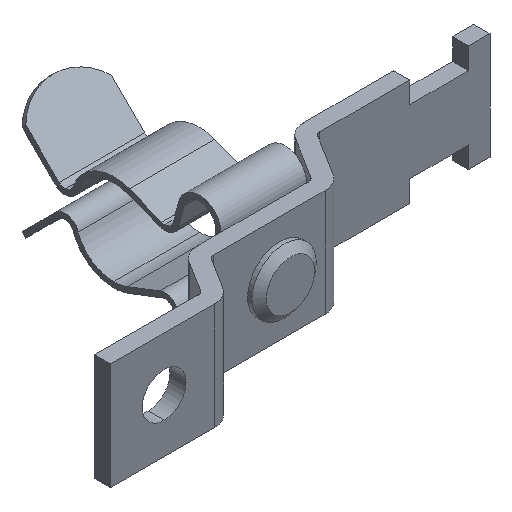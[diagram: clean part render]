
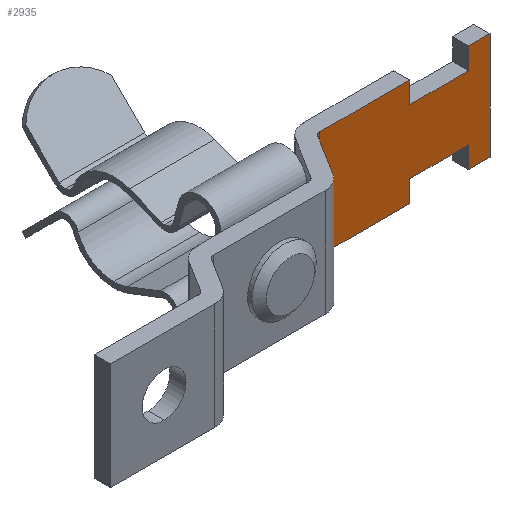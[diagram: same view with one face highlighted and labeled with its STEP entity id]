
A CAD part, isometric view. The second image highlights one B-rep face of the part: STEP entity #2935.
In plain terms, the highlighted planar face has unit normal (0, -1, 0).
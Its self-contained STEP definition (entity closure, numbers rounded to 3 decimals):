
#2 = DIRECTION ( 'NONE',  ( -1., 0., 0. ) ) ;
#4 = CARTESIAN_POINT ( 'NONE',  ( 31.051, 27.915, 28.561 ) ) ;
#8 = CARTESIAN_POINT ( 'NONE',  ( 36.551, 27.915, 28.561 ) ) ;
#10 = ORIENTED_EDGE ( 'NONE', *, *, #2580, .T. ) ;
#14 = DIRECTION ( 'NONE',  ( 0., 0., 1. ) ) ;
#18 = ORIENTED_EDGE ( 'NONE', *, *, #451, .T. ) ;
#40 = VERTEX_POINT ( 'NONE', #2093 ) ;
#97 = CARTESIAN_POINT ( 'NONE',  ( 31.051, 27.915, 28.561 ) ) ;
#132 = CARTESIAN_POINT ( 'NONE',  ( 36.551, 27.915, 28.561 ) ) ;
#186 = CARTESIAN_POINT ( 'NONE',  ( 36.551, 27.915, 30.561 ) ) ;
#293 = VECTOR ( 'NONE', #14, 1000. ) ;
#325 = LINE ( 'NONE', #1009, #860 ) ;
#358 = EDGE_CURVE ( 'NONE', #1165, #1889, #1015, .T. ) ;
#365 = ORIENTED_EDGE ( 'NONE', *, *, #1992, .T. ) ;
#385 = DIRECTION ( 'NONE',  ( 0., 0., -1. ) ) ;
#387 = CARTESIAN_POINT ( 'NONE',  ( 21.551, 27.915, 28.561 ) ) ;
#451 = EDGE_CURVE ( 'NONE', #1889, #564, #1125, .T. ) ;
#529 = CARTESIAN_POINT ( 'NONE',  ( 22.659, 27.915, 28.561 ) ) ;
#531 = EDGE_CURVE ( 'NONE', #1483, #1622, #1958, .T. ) ;
#564 = VERTEX_POINT ( 'NONE', #2569 ) ;
#578 = CARTESIAN_POINT ( 'NONE',  ( 31.051, 27.915, 36.561 ) ) ;
#617 = VERTEX_POINT ( 'NONE', #2313 ) ;
#642 = CARTESIAN_POINT ( 'NONE',  ( 38.551, 27.915, 28.561 ) ) ;
#661 = CARTESIAN_POINT ( 'NONE',  ( 38.551, 27.915, 28.561 ) ) ;
#669 = LINE ( 'NONE', #97, #2527 ) ;
#670 = EDGE_LOOP ( 'NONE', ( #1183, #365, #2272, #1806, #18, #739, #699, #10, #1429, #747, #2946, #2414 ) ) ;
#686 = EDGE_CURVE ( 'NONE', #40, #2769, #1273, .T. ) ;
#694 = DIRECTION ( 'NONE',  ( 0., 0., -1. ) ) ;
#699 = ORIENTED_EDGE ( 'NONE', *, *, #746, .T. ) ;
#739 = ORIENTED_EDGE ( 'NONE', *, *, #2175, .T. ) ;
#741 = AXIS2_PLACEMENT_3D ( 'NONE', #387, #2028, #2923 ) ;
#746 = EDGE_CURVE ( 'NONE', #1180, #2982, #325, .T. ) ;
#747 = ORIENTED_EDGE ( 'NONE', *, *, #942, .T. ) ;
#750 = LINE ( 'NONE', #2071, #2130 ) ;
#839 = VECTOR ( 'NONE', #694, 1000. ) ;
#852 = CARTESIAN_POINT ( 'NONE',  ( 22.659, 27.915, 28.561 ) ) ;
#860 = VECTOR ( 'NONE', #2368, 1000. ) ;
#897 = VECTOR ( 'NONE', #2, 1000. ) ;
#942 = EDGE_CURVE ( 'NONE', #1622, #2188, #1780, .T. ) ;
#986 = LINE ( 'NONE', #8, #839 ) ;
#1009 = CARTESIAN_POINT ( 'NONE',  ( 21.551, 27.915, 30.561 ) ) ;
#1015 = LINE ( 'NONE', #852, #1708 ) ;
#1073 = DIRECTION ( 'NONE',  ( 0., 0., 1. ) ) ;
#1108 = CARTESIAN_POINT ( 'NONE',  ( 21.551, 27.915, 28.561 ) ) ;
#1109 = CARTESIAN_POINT ( 'NONE',  ( 21.551, 27.915, 38.561 ) ) ;
#1125 = LINE ( 'NONE', #1353, #1674 ) ;
#1127 = CARTESIAN_POINT ( 'NONE',  ( 22.659, 27.915, 38.561 ) ) ;
#1160 = CARTESIAN_POINT ( 'NONE',  ( 31.051, 27.915, 30.561 ) ) ;
#1163 = CARTESIAN_POINT ( 'NONE',  ( 21.551, 27.915, 36.561 ) ) ;
#1165 = VERTEX_POINT ( 'NONE', #1127 ) ;
#1180 = VERTEX_POINT ( 'NONE', #1160 ) ;
#1183 = ORIENTED_EDGE ( 'NONE', *, *, #686, .T. ) ;
#1205 = EDGE_CURVE ( 'NONE', #2718, #40, #1455, .T. ) ;
#1273 = LINE ( 'NONE', #1163, #897 ) ;
#1320 = PLANE ( 'NONE',  #741 ) ;
#1353 = CARTESIAN_POINT ( 'NONE',  ( 21.551, 27.915, 28.561 ) ) ;
#1404 = LINE ( 'NONE', #4, #293 ) ;
#1429 = ORIENTED_EDGE ( 'NONE', *, *, #531, .T. ) ;
#1455 = LINE ( 'NONE', #2095, #2092 ) ;
#1457 = VECTOR ( 'NONE', #1609, 1000. ) ;
#1483 = VERTEX_POINT ( 'NONE', #132 ) ;
#1609 = DIRECTION ( 'NONE',  ( 1., 0., 0. ) ) ;
#1622 = VERTEX_POINT ( 'NONE', #661 ) ;
#1631 = CARTESIAN_POINT ( 'NONE',  ( 38.551, 27.915, 38.561 ) ) ;
#1674 = VECTOR ( 'NONE', #2039, 1000. ) ;
#1708 = VECTOR ( 'NONE', #385, 1000. ) ;
#1751 = EDGE_CURVE ( 'NONE', #2188, #2718, #750, .T. ) ;
#1778 = DIRECTION ( 'NONE',  ( 0., 0., 1. ) ) ;
#1780 = LINE ( 'NONE', #642, #2094 ) ;
#1806 = ORIENTED_EDGE ( 'NONE', *, *, #358, .T. ) ;
#1813 = DIRECTION ( 'NONE',  ( -1., 0., 0. ) ) ;
#1889 = VERTEX_POINT ( 'NONE', #529 ) ;
#1958 = LINE ( 'NONE', #1108, #1457 ) ;
#1992 = EDGE_CURVE ( 'NONE', #2769, #617, #669, .T. ) ;
#2028 = DIRECTION ( 'NONE',  ( 0., -1., 0. ) ) ;
#2039 = DIRECTION ( 'NONE',  ( 1., 0., 0. ) ) ;
#2071 = CARTESIAN_POINT ( 'NONE',  ( 21.551, 27.915, 38.561 ) ) ;
#2087 = EDGE_CURVE ( 'NONE', #617, #1165, #2811, .T. ) ;
#2092 = VECTOR ( 'NONE', #2779, 1000. ) ;
#2093 = CARTESIAN_POINT ( 'NONE',  ( 36.551, 27.915, 36.561 ) ) ;
#2094 = VECTOR ( 'NONE', #1073, 1000. ) ;
#2095 = CARTESIAN_POINT ( 'NONE',  ( 36.551, 27.915, 28.561 ) ) ;
#2130 = VECTOR ( 'NONE', #2533, 1000. ) ;
#2175 = EDGE_CURVE ( 'NONE', #564, #1180, #1404, .T. ) ;
#2188 = VERTEX_POINT ( 'NONE', #1631 ) ;
#2272 = ORIENTED_EDGE ( 'NONE', *, *, #2087, .T. ) ;
#2313 = CARTESIAN_POINT ( 'NONE',  ( 31.051, 27.915, 38.561 ) ) ;
#2368 = DIRECTION ( 'NONE',  ( 1., 0., 0. ) ) ;
#2385 = CARTESIAN_POINT ( 'NONE',  ( 36.551, 27.915, 38.561 ) ) ;
#2414 = ORIENTED_EDGE ( 'NONE', *, *, #1205, .T. ) ;
#2527 = VECTOR ( 'NONE', #1778, 1000. ) ;
#2533 = DIRECTION ( 'NONE',  ( -1., 0., 0. ) ) ;
#2569 = CARTESIAN_POINT ( 'NONE',  ( 31.051, 27.915, 28.561 ) ) ;
#2580 = EDGE_CURVE ( 'NONE', #2982, #1483, #986, .T. ) ;
#2638 = VECTOR ( 'NONE', #1813, 1000. ) ;
#2716 = FACE_OUTER_BOUND ( 'NONE', #670, .T. ) ;
#2718 = VERTEX_POINT ( 'NONE', #2385 ) ;
#2769 = VERTEX_POINT ( 'NONE', #578 ) ;
#2779 = DIRECTION ( 'NONE',  ( 0., 0., -1. ) ) ;
#2811 = LINE ( 'NONE', #1109, #2638 ) ;
#2923 = DIRECTION ( 'NONE',  ( 0., 0., -1. ) ) ;
#2935 = ADVANCED_FACE ( 'NONE', ( #2716 ), #1320, .T. ) ;
#2946 = ORIENTED_EDGE ( 'NONE', *, *, #1751, .T. ) ;
#2982 = VERTEX_POINT ( 'NONE', #186 ) ;
